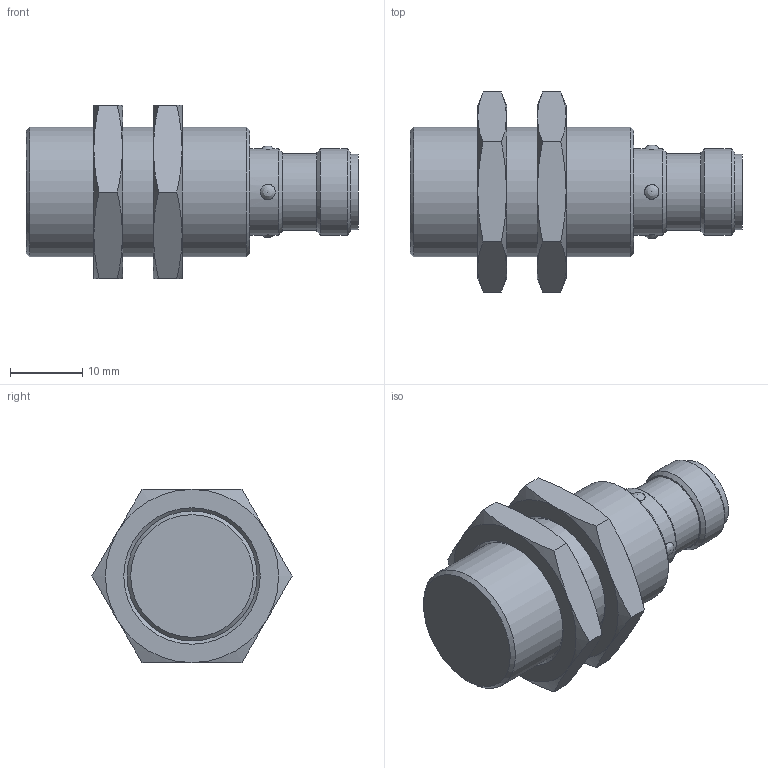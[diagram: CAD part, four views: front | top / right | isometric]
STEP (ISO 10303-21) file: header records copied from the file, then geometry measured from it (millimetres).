
FILE_DESCRIPTION((''),'2;1');
FILE_NAME('C:\TurckZip\Bi-M18K-X-H1.stp','2008-04-01T15:16:48',('IKOROL'),(''),'Autodesk Inventor 2008','Autodesk Inventor 2008','');
FILE_SCHEMA(('CONFIG_CONTROL_DESIGN'));
Length unit declared in the file: millimetre
Products named in the file (1): Part3
Bounding box: 46 x 27.71 x 24 mm (x, y, z)
Volume: 11217.5 mm3; surface area: 5492.9 mm2
Topology: 2 solids, 2 shells, 192 faces, 450 edges, 285 vertices
Faces by surface type: cylinder 69, plane 61, cone 43, bspline 15, torus 4
Full cylindrical faces by diameter (mm): 0.8 x4, 1 x8, 1.8 x4, 2 x5, 8 x1, 8.3 x1, 9 x1, 9.6 x1, 9.9 x1, 10.3 x1, 10.5 x1, 10.6 x1, 12 x2, 18 x3
Entity records: 6093 total; most frequent: CARTESIAN_POINT 2011, DIRECTION 808, ORIENTED_EDGE 694, AXIS2_PLACEMENT_3D 355, EDGE_CURVE 347, EDGE_LOOP 296, VERTEX_POINT 255, FACE_OUTER_BOUND 192
